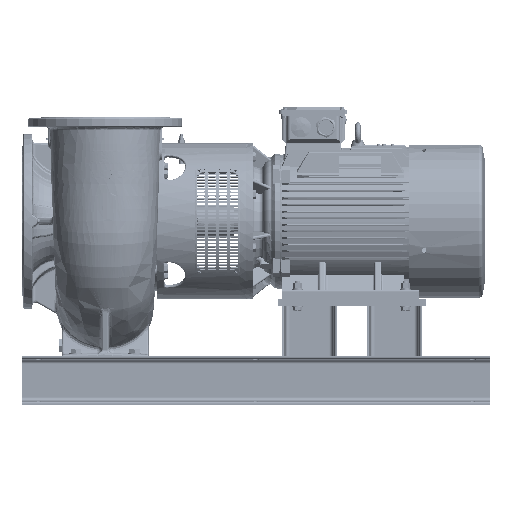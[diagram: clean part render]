
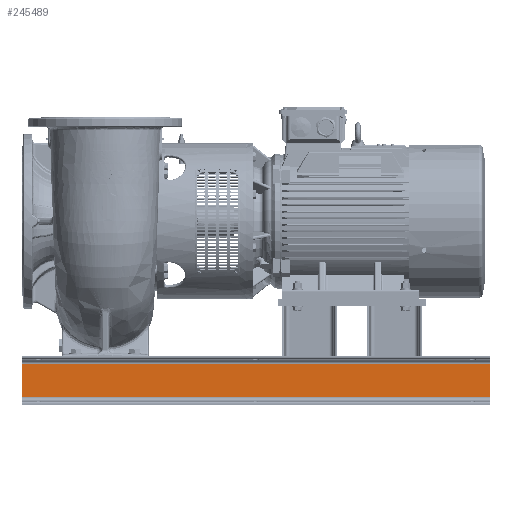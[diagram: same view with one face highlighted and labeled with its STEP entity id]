
A CAD part, top view. The second image highlights one B-rep face of the part: STEP entity #245489.
In plain terms, the highlighted planar face has unit normal (0, 0, 1) as drawn and (1, 0, 0) by its records, which use the part's own axes.
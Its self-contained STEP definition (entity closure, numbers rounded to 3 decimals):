
#238932=DIRECTION('',(0.,1.,0.));
#238933=VECTOR('',#238932,96.6);
#238934=CARTESIAN_POINT('',(357.,21.7,0.));
#238935=LINE('',#238934,#238933);
#240780=DIRECTION('',(0.,1.,0.));
#240781=VECTOR('',#240780,96.6);
#240782=CARTESIAN_POINT('',(357.,21.7,-1350.));
#240783=LINE('',#240782,#240781);
#241274=DIRECTION('',(0.,0.,-1.));
#241275=VECTOR('',#241274,1350.);
#241276=CARTESIAN_POINT('',(357.,21.7,0.));
#241277=LINE('',#241276,#241275);
#241278=DIRECTION('',(0.,0.,-1.));
#241279=VECTOR('',#241278,1350.);
#241280=CARTESIAN_POINT('',(357.,118.3,0.));
#241281=LINE('',#241280,#241279);
#242486=CARTESIAN_POINT('',(357.,21.7,0.));
#242487=VERTEX_POINT('',#242486);
#242488=CARTESIAN_POINT('',(357.,118.3,0.));
#242489=VERTEX_POINT('',#242488);
#242514=CARTESIAN_POINT('',(357.,21.7,-1350.));
#242515=VERTEX_POINT('',#242514);
#242516=CARTESIAN_POINT('',(357.,118.3,-1350.));
#242517=VERTEX_POINT('',#242516);
#245477=CARTESIAN_POINT('',(357.,21.7,0.));
#245478=DIRECTION('',(1.,0.,0.));
#245479=DIRECTION('',(0.,1.,0.));
#245480=AXIS2_PLACEMENT_3D('',#245477,#245478,#245479);
#245481=PLANE('',#245480);
#245482=ORIENTED_EDGE('',*,*,#243155,.T.);
#245484=ORIENTED_EDGE('',*,*,#245483,.T.);
#245485=ORIENTED_EDGE('',*,*,#245079,.F.);
#245486=ORIENTED_EDGE('',*,*,#245470,.F.);
#245487=EDGE_LOOP('',(#245482,#245484,#245485,#245486));
#245488=FACE_OUTER_BOUND('',#245487,.F.);
#245489=ADVANCED_FACE('',(#245488),#245481,.T.);
#243155=EDGE_CURVE('',#242487,#242489,#238935,.T.);
#245079=EDGE_CURVE('',#242515,#242517,#240783,.T.);
#245470=EDGE_CURVE('',#242487,#242515,#241277,.T.);
#245483=EDGE_CURVE('',#242489,#242517,#241281,.T.);
